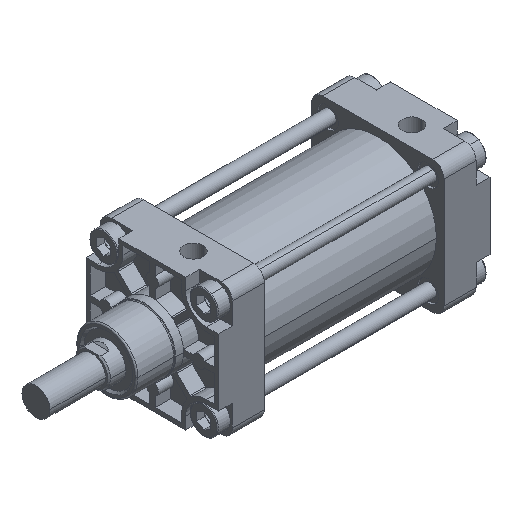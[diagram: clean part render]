
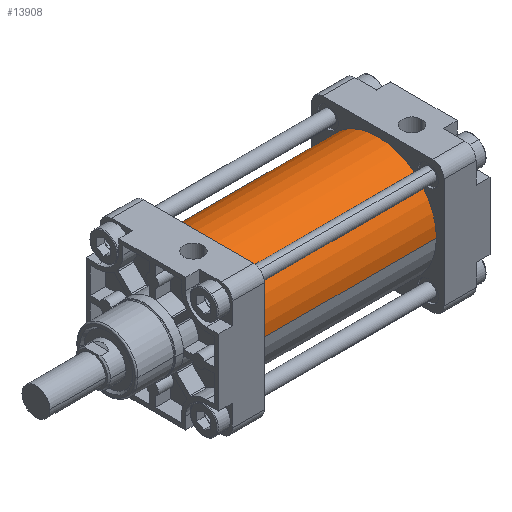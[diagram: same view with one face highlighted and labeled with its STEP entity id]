
A CAD part, isometric view. The second image highlights one B-rep face of the part: STEP entity #13908.
In plain terms, the highlighted cylindrical face has radius 42 mm (diameter 84 mm), a partial arc.
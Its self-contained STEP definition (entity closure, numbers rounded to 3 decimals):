
#13151=CARTESIAN_POINT('Vertex',(129.,-42.,0.)) ;
#13153=CARTESIAN_POINT('Vertex',(129.,42.,0.)) ;
#13156=CARTESIAN_POINT('Axis2P3D Location',(129.,0.,0.)) ;
#13866=CARTESIAN_POINT('Axis2P3D Location',(64.5,0.,0.)) ;
#13871=CARTESIAN_POINT('Line Origine',(64.5,-42.,0.)) ;
#13875=CARTESIAN_POINT('Vertex',(0.,-42.,0.)) ;
#13882=CARTESIAN_POINT('Vertex',(0.,42.,0.)) ;
#13885=CARTESIAN_POINT('Line Origine',(64.5,42.,0.)) ;
#13897=CARTESIAN_POINT('Axis2P3D Location',(0.,0.,0.)) ;
#13157=DIRECTION('Axis2P3D Direction',(1.,0.,0.)) ;
#13867=DIRECTION('Axis2P3D Direction',(1.,0.,0.)) ;
#13868=DIRECTION('Axis2P3D XDirection',(0.,1.,0.)) ;
#13872=DIRECTION('Vector Direction',(1.,0.,0.)) ;
#13886=DIRECTION('Vector Direction',(1.,0.,0.)) ;
#13898=DIRECTION('Axis2P3D Direction',(1.,0.,0.)) ;
#13158=AXIS2_PLACEMENT_3D('Circle Axis2P3D',#13156,#13157,$) ;
#13869=AXIS2_PLACEMENT_3D('Cylinder Axis2P3D',#13866,#13867,#13868) ;
#13899=AXIS2_PLACEMENT_3D('Circle Axis2P3D',#13897,#13898,$) ;
#13903=ORIENTED_EDGE('',*,*,#13889,.F.) ;
#13904=ORIENTED_EDGE('',*,*,#13901,.T.) ;
#13905=ORIENTED_EDGE('',*,*,#13877,.T.) ;
#13906=ORIENTED_EDGE('',*,*,#13160,.F.) ;
#13873=VECTOR('Line Direction',#13872,1.) ;
#13887=VECTOR('Line Direction',#13886,1.) ;
#13908=ADVANCED_FACE('PartBody',(#13907),#13870,.T.) ;
#13159=CIRCLE('generated circle',#13158,42.) ;
#13900=CIRCLE('generated circle',#13899,42.) ;
#13870=CYLINDRICAL_SURFACE('generated cylinder',#13869,42.) ;
#13160=EDGE_CURVE('',#13154,#13152,#13159,.T.) ;
#13877=EDGE_CURVE('',#13876,#13152,#13874,.T.) ;
#13889=EDGE_CURVE('',#13883,#13154,#13888,.T.) ;
#13901=EDGE_CURVE('',#13883,#13876,#13900,.T.) ;
#13902=EDGE_LOOP('',(#13903,#13904,#13905,#13906)) ;
#13907=FACE_OUTER_BOUND('',#13902,.T.) ;
#13874=LINE('Line',#13871,#13873) ;
#13888=LINE('Line',#13885,#13887) ;
#13152=VERTEX_POINT('',#13151) ;
#13154=VERTEX_POINT('',#13153) ;
#13876=VERTEX_POINT('',#13875) ;
#13883=VERTEX_POINT('',#13882) ;
